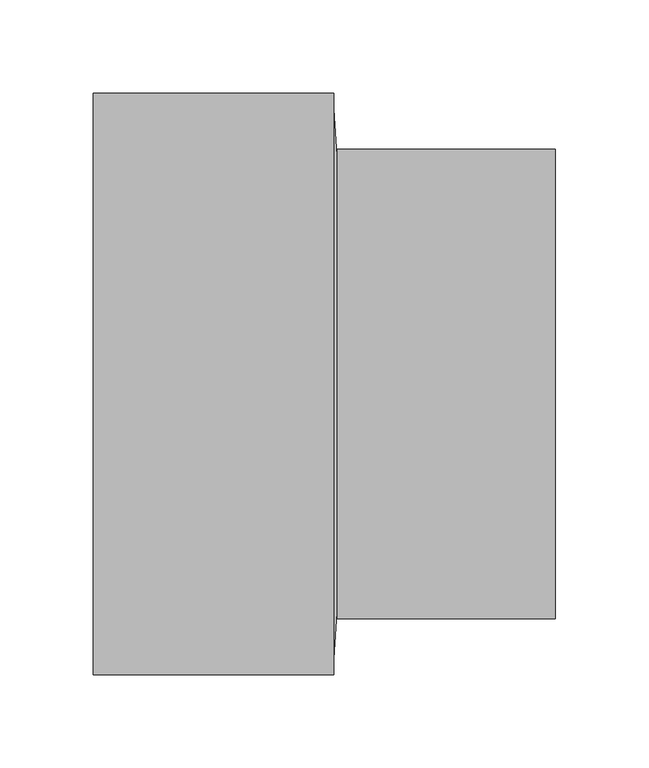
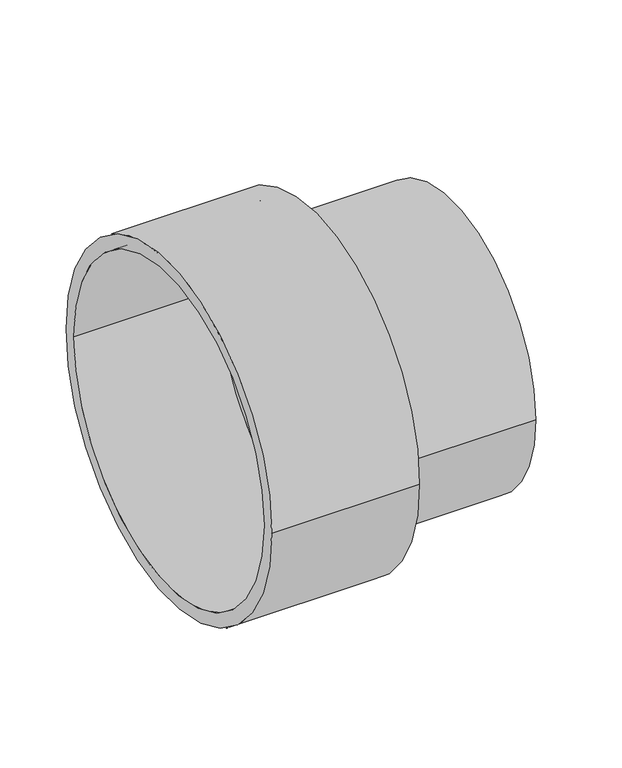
"""IFC4 building model written with IfcOpenShell, lengths in millimetres: pipe fitting geometry, Pipelife - Pragma +ID - Redukcja kanalizacyjna : Pipelife - Pragma +ID - Redukcja kanalizacyjna."""

from ifc_helpers import new_model, si_unit, point, frame, origin, origin_2d, place, context, project, spatial, polyline, circle_curve, trimmed, segment, composite_curve, outline, extrude, source, transform, mapped, element, save
from ifc_brep_helpers import plane_surface, cylinder_surface, revolved_surface, advanced_brep


def pipe_fitting_40f565c3(model_context):
    return source(origin(), model_context, "Body", "SolidModel", [
        extrude(outline(composite_curve([segment(trimmed(circle_curve(origin_2d(), 126.0), [point((-126.0, 0.0))], [point((126.0, 0.0))], False, "CARTESIAN"), True, "CONTINUOUS"), segment(trimmed(circle_curve(origin_2d(), 126.0), [point((126.0, 0.0))], [point((-126.0, 0.0))], False, "CARTESIAN"), True, "CONTINUOUS")], self_intersect=False), holes=[composite_curve([segment(trimmed(circle_curve(origin_2d(), 115.5), [point((115.5, 0.0))], [point((-115.5, 0.0))], True, "CARTESIAN"), True, "CONTINUOUS"), segment(trimmed(circle_curve(origin_2d(), 115.5), [point((-115.5, 0.0))], [point((115.5, 0.0))], True, "CARTESIAN"), True, "CONTINUOUS")], self_intersect=False)]), frame((1.0, 0.0, 0.0), z_axis=(1.0, 0.0, 0.0), x_axis=(0.0, 1.0, 0.0)), (0.0, 0.0, 1.0), 117.0),
        advanced_brep(
        [(-130.0, -156.0, 0.0), (-130.0, 156.0, 0.0), (-130.0, 144.0, 0.0), (-130.0, -144.0, 0.0), (-1.0, -156.0, 0.0), (-1.0, 156.0, 0.0), (-3.0, -144.0, 0.0), (-3.0, 144.0, 0.0)],
        [
            (0, 1, circle_curve(frame((-130.0, 0.0, 0.0), z_axis=(-1.0, 0.0, 0.0), x_axis=(0.0, 1.0, 0.0)), 156.0)),
            (1, 0, circle_curve(frame((-130.0, 0.0, 0.0), z_axis=(-1.0, 0.0, 0.0), x_axis=(0.0, 1.0, 0.0)), 156.0)),
            (2, 3, circle_curve(frame((-130.0, 0.0, 0.0), z_axis=(1.0, 0.0, 0.0), x_axis=(0.0, 1.0, 0.0)), 144.0)),
            (3, 2, circle_curve(frame((-130.0, 0.0, 0.0), z_axis=(1.0, 0.0, 0.0), x_axis=(0.0, 1.0, 0.0)), 144.0)),
            (4, 5, circle_curve(frame((-1.0, 0.0, 0.0), z_axis=(1.0, 0.0, 0.0), x_axis=(0.0, 1.0, 0.0)), 156.0)),
            (5, 4, circle_curve(frame((-1.0, 0.0, 0.0), z_axis=(1.0, 0.0, 0.0), x_axis=(0.0, 1.0, 0.0)), 156.0)),
            (0, 4),
            (5, 1),
            (6, 7, circle_curve(frame((-3.0, 0.0, 0.0), z_axis=(-1.0, 0.0, 0.0), x_axis=(0.0, 1.0, 0.0)), 144.0)),
            (7, 6, circle_curve(frame((-3.0, 0.0, 0.0), z_axis=(-1.0, 0.0, 0.0), x_axis=(0.0, 1.0, 0.0)), 144.0)),
            (6, 3),
            (2, 7),
        ],
        [
            plane_surface(frame((-130.0, 0.0, 0.0), z_axis=(-1.0, 0.0, 0.0), x_axis=(0.0, 0.0, 1.0))),
            plane_surface(frame((-1.0, 0.0, 0.0), z_axis=(1.0, 0.0, 0.0), x_axis=(0.0, 0.0, 1.0))),
            cylinder_surface(frame((-130.0, 0.0, 0.0), z_axis=(-1.0, 0.0, 0.0), x_axis=(0.0, 1.0, 0.0)), 156.0),
            plane_surface(frame((-3.0, 0.0, 0.0), z_axis=(-1.0, 0.0, 0.0), x_axis=(0.0, 0.0, 1.0))),
            revolved_surface(polyline([(-130.0, 144.0, 0.0), (-3.0, 144.0, 0.0)]), (-135.0, 0.0, 0.0), (-1.0, 0.0, 0.0)),
        ],
        [
            (0, [[1, 2], [3, 4]]),
            (1, [[5, 6]]),
            (2, [[-1, 7, -6, 8]]),
            (2, [[-2, -8, -5, -7]]),
            (3, [[9, 10]]),
            (4, [[-9, 11, -3, 12]]),
            (4, [[-10, -12, -4, -11]]),
        ],
    ),
        advanced_brep(
        [(1.0, -118.5, 0.0), (1.0, 118.5, 0.0), (-1.0, -147.5, 0.0), (-1.0, 147.5, 0.0)],
        [
            (0, 1, circle_curve(frame((1.0, 0.0, 0.0), z_axis=(1.0, 0.0, 0.0), x_axis=(0.0, -1.0, 0.0)), 118.5)),
            (1, 0, circle_curve(frame((1.0, 0.0, 0.0), z_axis=(1.0, 0.0, 0.0), x_axis=(0.0, 1.0, 0.0)), 118.5)),
            (2, 3, circle_curve(frame((-1.0, 0.0, 0.0), z_axis=(-1.0, 0.0, 0.0), x_axis=(0.0, 1.0, 0.0)), 147.5)),
            (3, 2, circle_curve(frame((-1.0, 0.0, 0.0), z_axis=(-1.0, 0.0, 0.0), x_axis=(0.0, -1.0, 0.0)), 147.5)),
            (3, 1),
            (0, 2),
        ],
        [
            plane_surface(frame((1.0, 0.0, 0.0), z_axis=(1.0, 0.0, 0.0), x_axis=(0.0, 0.0, 1.0))),
            plane_surface(frame((-1.0, 0.0, 0.0), z_axis=(-1.0, 0.0, 0.0), x_axis=(0.0, 0.0, 1.0))),
            revolved_surface(polyline([(1.0, -118.50000001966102, 0.0), (-1.0, -147.5, 0.0)]), (9.1724138, 0.0, 0.0), (-1.0, 0.0, 0.0)),
            revolved_surface(polyline([(1.0, 118.50000001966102, 0.0), (-1.0, 147.5, 0.0)]), (9.1724138, 0.0, 0.0), (-1.0, 0.0, 0.0)),
        ],
        [
            (0, [[1, 2]]),
            (1, [[3, 4]]),
            (2, [[-4, 5, -1, 6]]),
            (3, [[-3, -6, -2, -5]]),
        ],
    ),
    ])


if __name__ == "__main__":
    model = new_model("IFC4")
    model_context = context("Model", 3, world=origin())
    ifc_project = project(units=[si_unit("LENGTHUNIT", "METRE", prefix="MILLI")], contexts=[model_context])
    site = spatial("IfcSite", under=ifc_project)
    building = spatial("IfcBuilding", under=site)
    placement = place(None, origin())
    pipe_fitting_shape = pipe_fitting_40f565c3(model_context)
    element("IfcPipeFitting", 1, ObjectType="Pipelife - Pragma +ID - Redukcja kanalizacyjna : Pipelife - Pragma +ID - Redukcja kanalizacyjna", at=placement, inside=building, context=model_context, shape_type="MappedRepresentation", body=[
        mapped(pipe_fitting_shape, transform((0.0, 0.0, 0.0), x_axis=(1.0, 0.0, 0.0), y_axis=(0.0, 1.0, 0.0), z_axis=(0.0, 0.0, 1.0))),
    ])
    save(model, "model.ifc")
